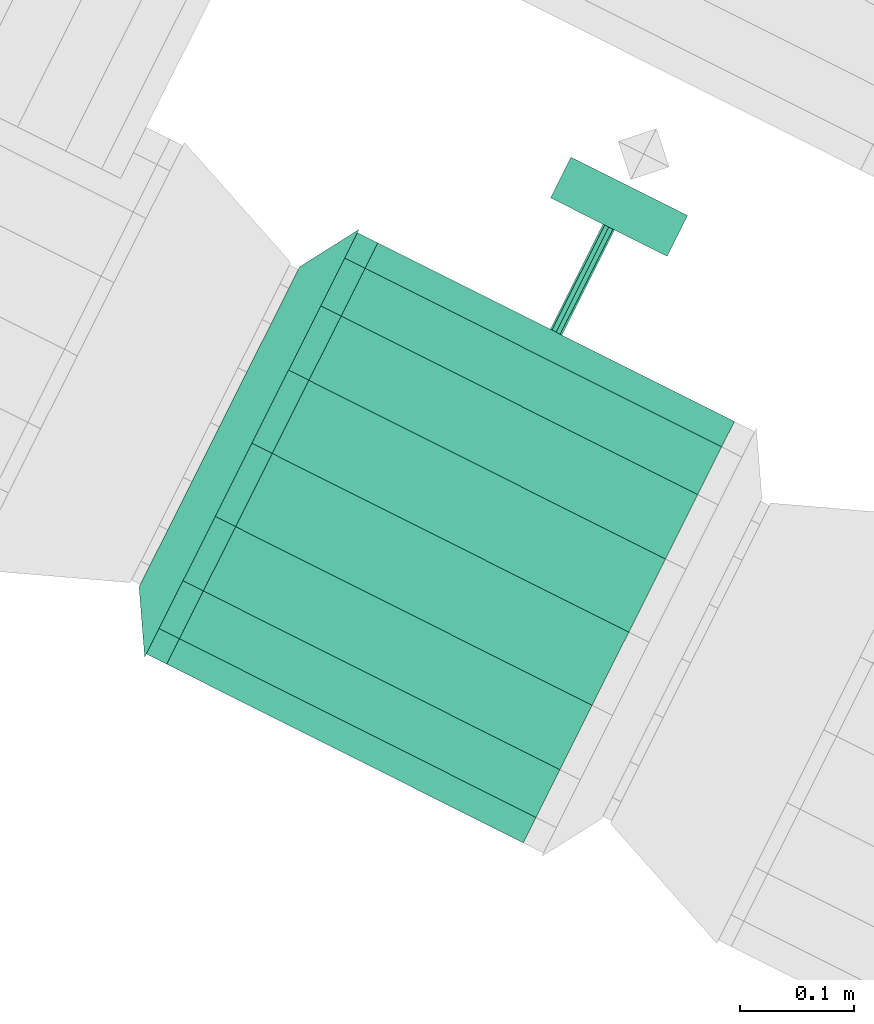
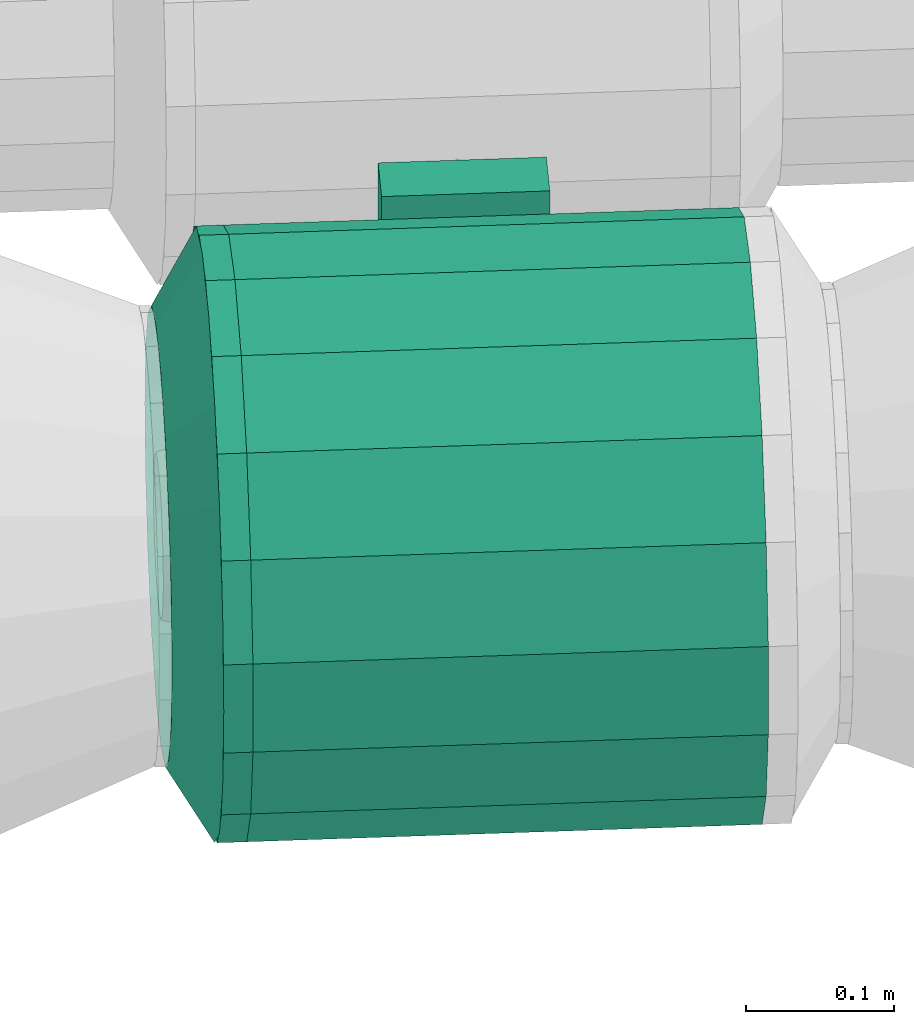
# One storey, part 28 of 152: 1 flow controller, 1 flow fitting.
"""IFC2X3 building model written with IfcOpenShell, lengths in metres."""

from ifc_helpers import new_model, si_unit, derived_unit, direction, frame, origin, place, context, subcontext, project, spatial, face_set, surface_model, source, transform, mapped, material, type_object, type_shapes, element, save


model = new_model("IFC2X3")

# Units and contexts
model_context = context("Model", 3, precision=5.2338327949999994e-05, world=origin(), true_north=direction((0.0, 1.0)))
body_context = subcontext(model_context, "Body", "Model", "MODEL_VIEW")
ifc_project = project(units=[si_unit("LENGTHUNIT", "METRE"), si_unit("AREAUNIT", "SQUARE_METRE"), si_unit("VOLUMEUNIT", "CUBIC_METRE"), si_unit("MASSUNIT", "GRAM", prefix="KILO"), si_unit("PLANEANGLEUNIT", "RADIAN"), derived_unit("THERMALTRANSMITTANCEUNIT", [(si_unit("MASSUNIT", "GRAM", prefix="KILO"), 1), (si_unit("THERMODYNAMICTEMPERATUREUNIT", "KELVIN"), -1), (si_unit("TIMEUNIT", "SECOND"), -3)])], contexts=[model_context])

# Site, building, storey
site_placement = place(None, frame((0.0, 0.0, 0.0), z_axis=(0.0, 0.0, 1.0), x_axis=(0.8939966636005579, -0.4480736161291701, 0.0)))
site = spatial("IfcSite", under=ifc_project, at=site_placement, Name="Default", CompositionType="ELEMENT")
building_placement = place(site_placement, origin())
building = spatial("IfcBuilding", under=site, at=building_placement, CompositionType="ELEMENT")
storey_placement = place(building_placement, frame((0.0, 0.0, 2.7499999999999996)))
storey = spatial("IfcBuildingStorey", under=building, at=storey_placement, Name="1. Obergeschoss", CompositionType="ELEMENT", Elevation=2.7499999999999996)

# Flow controller
ifc_material = material(Name="IfcSurfaceStyle #9317")
distribution_element_type_1 = type_object("IfcDistributionElementType", Name="Ventil 263077:Ventil 263077", material=ifc_material)
shared_shape_1 = source(origin(), body_context, "Body", "SurfaceModel", [
    surface_model("IfcFaceBasedSurfaceModel", [(13.035778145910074, 6.166787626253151, 5.57849078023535), (13.150078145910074, 6.166787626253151, 5.57849078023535), (13.150078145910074, 6.166787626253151, 5.69279078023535), (13.035778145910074, 6.166787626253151, 5.69279078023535), (13.150078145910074, 6.206787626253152, 5.69279078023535), (13.035778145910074, 6.206787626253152, 5.69279078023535), (13.150078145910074, 6.206787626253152, 5.57849078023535), (13.035778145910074, 6.206787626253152, 5.57849078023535), (12.917928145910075, 5.856787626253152, 5.745640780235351), (12.917928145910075, 5.819165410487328, 5.7390069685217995), (12.937928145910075, 5.819165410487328, 5.7390069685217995), (12.937928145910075, 5.856787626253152, 5.745640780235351), (12.917928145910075, 5.786080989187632, 5.719905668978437), (12.937928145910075, 5.786080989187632, 5.719905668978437), (12.917928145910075, 5.761524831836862, 5.69064078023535), (12.937928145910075, 5.761524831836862, 5.69064078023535), (12.917928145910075, 5.748458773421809, 5.654742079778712), (12.937928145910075, 5.748458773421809, 5.654742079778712), (12.917928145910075, 5.748458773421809, 5.616539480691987), (12.937928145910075, 5.748458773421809, 5.616539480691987), (12.917928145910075, 5.761524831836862, 5.580640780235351), (12.937928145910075, 5.761524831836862, 5.580640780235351), (12.917928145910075, 5.786080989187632, 5.551375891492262), (12.937928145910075, 5.786080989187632, 5.551375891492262), (12.917928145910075, 5.819165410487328, 5.5322745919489), (12.937928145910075, 5.819165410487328, 5.5322745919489), (12.917928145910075, 5.856787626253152, 5.525640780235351), (12.937928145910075, 5.856787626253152, 5.525640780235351), (12.917928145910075, 5.894409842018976, 5.5322745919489), (12.937928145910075, 5.894409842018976, 5.5322745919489), (12.917928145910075, 5.927494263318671, 5.551375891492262), (12.937928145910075, 5.927494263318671, 5.551375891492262), (12.917928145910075, 5.95205042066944, 5.580640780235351), (12.937928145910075, 5.95205042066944, 5.580640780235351), (12.917928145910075, 5.965116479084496, 5.616539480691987), (12.937928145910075, 5.965116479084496, 5.616539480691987), (12.917928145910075, 5.965116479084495, 5.654742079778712), (12.937928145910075, 5.965116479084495, 5.654742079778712), (12.917928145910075, 5.95205042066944, 5.69064078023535), (12.937928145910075, 5.95205042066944, 5.69064078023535), (12.917928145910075, 5.927494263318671, 5.719905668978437), (12.937928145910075, 5.927494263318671, 5.719905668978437), (12.917928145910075, 5.894409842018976, 5.7390069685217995), (12.937928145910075, 5.894409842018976, 5.7390069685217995), (12.917928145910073, 5.856787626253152, 5.63564078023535), (12.937928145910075, 5.856787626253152, 5.63564078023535), (12.937928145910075, 5.791287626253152, 5.6356407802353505), (12.937928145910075, 5.795237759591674, 5.61323846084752), (13.092928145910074, 5.803084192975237, 5.616094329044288), (13.092928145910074, 5.799637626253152, 5.635640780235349), (12.937928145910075, 5.806611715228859, 5.5935381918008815), (13.092928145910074, 5.813008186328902, 5.598905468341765), (12.937928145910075, 5.824037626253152, 5.578916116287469), (13.092928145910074, 5.828212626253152, 5.58614742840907), (12.937928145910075, 5.845413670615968, 5.571135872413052), (13.092928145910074, 5.846863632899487, 5.579359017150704), (12.937928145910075, 5.868161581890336, 5.57113587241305), (13.092928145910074, 5.866711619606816, 5.579359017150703), (12.937928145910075, 5.889537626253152, 5.578916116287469), (13.092928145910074, 5.885362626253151, 5.58614742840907), (12.937928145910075, 5.906963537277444, 5.593538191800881), (13.092928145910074, 5.9005670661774, 5.598905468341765), (12.937928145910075, 5.918337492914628, 5.613238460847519), (13.092928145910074, 5.910491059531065, 5.616094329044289), (12.937928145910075, 5.922287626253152, 5.63564078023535), (13.092928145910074, 5.913937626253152, 5.63564078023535), (12.937928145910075, 5.9183374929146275, 5.658043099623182), (13.092928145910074, 5.910491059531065, 5.655187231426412), (12.937928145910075, 5.906963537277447, 5.6777433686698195), (13.092928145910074, 5.900567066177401, 5.672376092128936), (12.937928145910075, 5.889537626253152, 5.69236544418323), (13.092928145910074, 5.885362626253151, 5.685134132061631), (12.937928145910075, 5.868161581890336, 5.70014568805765), (13.092928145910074, 5.866711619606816, 5.691922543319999), (12.937928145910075, 5.845413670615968, 5.70014568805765), (13.092928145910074, 5.846863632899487, 5.691922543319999), (12.937928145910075, 5.824037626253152, 5.69236544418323), (13.092928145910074, 5.828212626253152, 5.685134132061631), (12.937928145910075, 5.806611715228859, 5.677743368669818), (13.092928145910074, 5.813008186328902, 5.672376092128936), (12.937928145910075, 5.795237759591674, 5.658043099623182), (13.092928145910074, 5.803084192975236, 5.655187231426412), (13.247928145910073, 5.795237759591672, 5.613238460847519), (13.247928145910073, 5.791287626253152, 5.63564078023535), (13.247928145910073, 5.806611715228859, 5.5935381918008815), (13.247928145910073, 5.824037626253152, 5.578916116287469), (13.247928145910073, 5.845413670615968, 5.571135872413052), (13.247928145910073, 5.868161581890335, 5.571135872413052), (13.247928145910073, 5.889537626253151, 5.578916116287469), (13.247928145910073, 5.906963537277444, 5.5935381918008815), (13.247928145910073, 5.9183374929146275, 5.613238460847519), (13.247928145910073, 5.9222876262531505, 5.63564078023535), (13.247928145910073, 5.918337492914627, 5.658043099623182), (13.247928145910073, 5.906963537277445, 5.6777433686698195), (13.247928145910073, 5.889537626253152, 5.692365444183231), (13.247928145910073, 5.868161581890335, 5.70014568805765), (13.247928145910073, 5.845413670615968, 5.70014568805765), (13.247928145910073, 5.824037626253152, 5.69236544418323), (13.247928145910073, 5.806611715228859, 5.67774336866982), (13.247928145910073, 5.795237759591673, 5.658043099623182), (13.247928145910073, 5.856787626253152, 5.745640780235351), (13.247928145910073, 5.819165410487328, 5.7390069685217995), (13.267928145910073, 5.819165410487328, 5.7390069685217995), (13.267928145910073, 5.856787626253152, 5.745640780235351), (13.247928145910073, 5.786080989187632, 5.719905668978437), (13.267928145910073, 5.786080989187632, 5.719905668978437), (13.247928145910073, 5.761524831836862, 5.69064078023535), (13.267928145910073, 5.761524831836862, 5.69064078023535), (13.247928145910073, 5.748458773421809, 5.654742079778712), (13.267928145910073, 5.748458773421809, 5.654742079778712), (13.247928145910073, 5.748458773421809, 5.616539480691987), (13.267928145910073, 5.748458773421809, 5.616539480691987), (13.247928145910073, 5.761524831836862, 5.580640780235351), (13.267928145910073, 5.761524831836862, 5.580640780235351), (13.247928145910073, 5.786080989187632, 5.551375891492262), (13.267928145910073, 5.786080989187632, 5.551375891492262), (13.247928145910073, 5.819165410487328, 5.5322745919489), (13.267928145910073, 5.819165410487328, 5.5322745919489), (13.247928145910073, 5.856787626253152, 5.525640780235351), (13.267928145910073, 5.856787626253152, 5.525640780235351), (13.247928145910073, 5.894409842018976, 5.5322745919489), (13.267928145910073, 5.894409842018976, 5.5322745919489), (13.247928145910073, 5.927494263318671, 5.551375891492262), (13.267928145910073, 5.927494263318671, 5.551375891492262), (13.247928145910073, 5.95205042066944, 5.580640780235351), (13.267928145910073, 5.95205042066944, 5.580640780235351), (13.247928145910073, 5.965116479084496, 5.616539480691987), (13.267928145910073, 5.965116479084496, 5.616539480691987), (13.247928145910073, 5.965116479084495, 5.654742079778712), (13.267928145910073, 5.965116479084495, 5.654742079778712), (13.247928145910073, 5.95205042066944, 5.69064078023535), (13.267928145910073, 5.95205042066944, 5.69064078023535), (13.247928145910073, 5.927494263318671, 5.719905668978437), (13.267928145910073, 5.927494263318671, 5.719905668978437), (13.247928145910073, 5.894409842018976, 5.7390069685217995), (13.267928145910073, 5.894409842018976, 5.7390069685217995), (13.247928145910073, 5.856787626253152, 5.63564078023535), (13.267928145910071, 5.856787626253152, 5.63564078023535), (13.092928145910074, 5.856787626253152, 5.69279078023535), (13.112474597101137, 5.856787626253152, 5.689344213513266), (13.112474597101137, 6.040362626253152, 5.689344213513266), (13.092928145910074, 6.040362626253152, 5.69279078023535), (13.12966345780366, 5.856787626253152, 5.6794202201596), (13.12966345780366, 6.040362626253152, 5.6794202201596), (13.142421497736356, 5.856787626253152, 5.664215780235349), (13.142421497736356, 6.040362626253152, 5.664215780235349), (13.149209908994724, 5.856787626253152, 5.645564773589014), (13.149209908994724, 6.040362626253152, 5.645564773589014), (13.149209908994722, 5.856787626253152, 5.625716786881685), (13.149209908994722, 6.040362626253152, 5.625716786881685), (13.142421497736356, 5.856787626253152, 5.60706578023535), (13.142421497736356, 6.040362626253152, 5.60706578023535), (13.12966345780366, 5.856787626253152, 5.591861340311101), (13.12966345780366, 6.040362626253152, 5.591861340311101), (13.112474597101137, 5.856787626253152, 5.581937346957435), (13.112474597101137, 6.040362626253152, 5.581937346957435), (13.092928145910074, 5.856787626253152, 5.57849078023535), (13.092928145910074, 6.040362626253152, 5.57849078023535), (13.073381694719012, 5.856787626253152, 5.581937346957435), (13.073381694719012, 6.040362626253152, 5.581937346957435), (13.056192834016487, 5.856787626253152, 5.591861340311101), (13.056192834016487, 6.040362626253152, 5.591861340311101), (13.043434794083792, 5.856787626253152, 5.60706578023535), (13.043434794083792, 6.040362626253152, 5.60706578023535), (13.036646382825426, 5.856787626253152, 5.625716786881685), (13.036646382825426, 6.040362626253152, 5.625716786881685), (13.036646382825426, 5.856787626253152, 5.645564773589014), (13.036646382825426, 6.040362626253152, 5.645564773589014), (13.043434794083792, 5.856787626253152, 5.66421578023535), (13.043434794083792, 6.040362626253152, 5.66421578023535), (13.056192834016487, 5.856787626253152, 5.679420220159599), (13.056192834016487, 6.040362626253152, 5.679420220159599), (13.073381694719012, 5.856787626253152, 5.689344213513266), (13.073381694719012, 6.040362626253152, 5.689344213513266), (13.092928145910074, 5.856787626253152, 5.63564078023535), (13.092928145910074, 6.040362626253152, 5.63564078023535), (13.092928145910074, 6.040362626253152, 5.64135578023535), (13.096969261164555, 6.040362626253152, 5.639681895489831), (13.096969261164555, 6.166787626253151, 5.639681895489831), (13.092928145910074, 6.166787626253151, 5.64135578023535), (13.098643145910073, 6.040362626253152, 5.635640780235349), (13.098643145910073, 6.166787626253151, 5.635640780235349), (13.096969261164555, 6.040362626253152, 5.631599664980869), (13.096969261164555, 6.166787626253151, 5.631599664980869), (13.092928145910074, 6.040362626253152, 5.629925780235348), (13.092928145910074, 6.166787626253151, 5.629925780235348), (13.088887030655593, 6.040362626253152, 5.631599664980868), (13.088887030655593, 6.166787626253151, 5.631599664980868), (13.087213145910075, 6.040362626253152, 5.63564078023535), (13.087213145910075, 6.166787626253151, 5.63564078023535), (13.088887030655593, 6.040362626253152, 5.639681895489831), (13.088887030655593, 6.166787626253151, 5.639681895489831), (13.092928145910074, 6.166787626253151, 5.63564078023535), (12.917928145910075, 5.856787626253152, 5.84564078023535), (12.917928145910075, 5.784963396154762, 5.83297623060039), (13.267928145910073, 5.784963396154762, 5.83297623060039), (13.267928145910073, 5.856787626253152, 5.84564078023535), (12.917928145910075, 5.721802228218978, 5.796510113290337), (13.267928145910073, 5.721802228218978, 5.796510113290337), (12.917928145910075, 5.67492229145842, 5.740640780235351), (13.267928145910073, 5.67492229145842, 5.740640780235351), (12.917928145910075, 5.6499779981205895, 5.672106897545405), (13.267928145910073, 5.6499779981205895, 5.672106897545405), (12.917928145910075, 5.649977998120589, 5.599174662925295), (13.267928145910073, 5.649977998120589, 5.599174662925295), (12.917928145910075, 5.67492229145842, 5.53064078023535), (13.267928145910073, 5.67492229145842, 5.53064078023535), (12.917928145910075, 5.721802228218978, 5.474771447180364), (13.267928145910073, 5.721802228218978, 5.474771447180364), (12.917928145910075, 5.784963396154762, 5.4383053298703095), (13.267928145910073, 5.784963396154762, 5.4383053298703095), (12.917928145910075, 5.856787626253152, 5.42564078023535), (13.267928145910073, 5.856787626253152, 5.42564078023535), (12.917928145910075, 5.928611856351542, 5.43830532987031), (13.267928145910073, 5.928611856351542, 5.43830532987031), (12.917928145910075, 5.991773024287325, 5.474771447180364), (13.267928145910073, 5.991773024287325, 5.474771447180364), (12.917928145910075, 6.038652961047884, 5.53064078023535), (13.267928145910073, 6.038652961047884, 5.53064078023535), (12.917928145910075, 6.063597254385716, 5.599174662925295), (13.267928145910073, 6.063597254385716, 5.599174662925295), (12.917928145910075, 6.063597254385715, 5.672106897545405), (13.267928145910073, 6.063597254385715, 5.672106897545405), (12.917928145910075, 6.038652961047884, 5.740640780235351), (13.267928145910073, 6.038652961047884, 5.740640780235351), (12.917928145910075, 5.991773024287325, 5.796510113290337), (13.267928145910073, 5.991773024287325, 5.796510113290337), (12.917928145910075, 5.928611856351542, 5.83297623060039), (13.267928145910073, 5.928611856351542, 5.83297623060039)], [face_set([[[0, 1, 2, 3]], [[3, 2, 4, 5]], [[5, 4, 6, 7]], [[7, 6, 1, 0]], [[0, 3, 5, 7]], [[6, 4, 2, 1]], [[8, 9, 10, 11]], [[9, 12, 13, 10]], [[12, 14, 15, 13]], [[14, 16, 17, 15]], [[16, 18, 19, 17]], [[18, 20, 21, 19]], [[20, 22, 23, 21]], [[22, 24, 25, 23]], [[24, 26, 27, 25]], [[26, 28, 29, 27]], [[28, 30, 31, 29]], [[30, 32, 33, 31]], [[32, 34, 35, 33]], [[34, 36, 37, 35]], [[36, 38, 39, 37]], [[38, 40, 41, 39]], [[40, 42, 43, 41]], [[42, 8, 11, 43]], [[44, 9, 8]], [[44, 12, 9]], [[44, 14, 12]], [[44, 16, 14]], [[44, 18, 16]], [[44, 20, 18]], [[44, 22, 20]], [[44, 24, 22]], [[44, 26, 24]], [[44, 28, 26]], [[44, 30, 28]], [[44, 32, 30]], [[44, 34, 32]], [[44, 36, 34]], [[44, 38, 36]], [[44, 40, 38]], [[44, 42, 40]], [[44, 8, 42]], [[45, 43, 11]], [[45, 41, 43]], [[45, 39, 41]], [[45, 37, 39]], [[45, 35, 37]], [[45, 33, 35]], [[45, 31, 33]], [[45, 29, 31]], [[45, 27, 29]], [[45, 25, 27]], [[45, 23, 25]], [[45, 21, 23]], [[45, 19, 21]], [[45, 17, 19]], [[45, 15, 17]], [[45, 13, 15]], [[45, 10, 13]], [[45, 11, 10]], [[46, 47, 48, 49]], [[47, 50, 51, 48]], [[50, 52, 53, 51]], [[52, 54, 55, 53]], [[54, 56, 57, 55]], [[56, 58, 59, 57]], [[58, 60, 61, 59]], [[60, 62, 63, 61]], [[62, 64, 65, 63]], [[64, 66, 67, 65]], [[66, 68, 69, 67]], [[68, 70, 71, 69]], [[70, 72, 73, 71]], [[72, 74, 75, 73]], [[74, 76, 77, 75]], [[76, 78, 79, 77]], [[78, 80, 81, 79]], [[80, 46, 49, 81]], [[49, 48, 82, 83]], [[48, 51, 84, 82]], [[51, 53, 85, 84]], [[53, 55, 86, 85]], [[55, 57, 87, 86]], [[57, 59, 88, 87]], [[59, 61, 89, 88]], [[61, 63, 90, 89]], [[63, 65, 91, 90]], [[65, 67, 92, 91]], [[67, 69, 93, 92]], [[69, 71, 94, 93]], [[71, 73, 95, 94]], [[73, 75, 96, 95]], [[75, 77, 97, 96]], [[77, 79, 98, 97]], [[79, 81, 99, 98]], [[81, 49, 83, 99]], [[100, 101, 102, 103]], [[101, 104, 105, 102]], [[104, 106, 107, 105]], [[106, 108, 109, 107]], [[108, 110, 111, 109]], [[110, 112, 113, 111]], [[112, 114, 115, 113]], [[114, 116, 117, 115]], [[116, 118, 119, 117]], [[118, 120, 121, 119]], [[120, 122, 123, 121]], [[122, 124, 125, 123]], [[124, 126, 127, 125]], [[126, 128, 129, 127]], [[128, 130, 131, 129]], [[130, 132, 133, 131]], [[132, 134, 135, 133]], [[134, 100, 103, 135]], [[136, 101, 100]], [[136, 104, 101]], [[136, 106, 104]], [[136, 108, 106]], [[136, 110, 108]], [[136, 112, 110]], [[136, 114, 112]], [[136, 116, 114]], [[136, 118, 116]], [[136, 120, 118]], [[136, 122, 120]], [[136, 124, 122]], [[136, 126, 124]], [[136, 128, 126]], [[136, 130, 128]], [[136, 132, 130]], [[136, 134, 132]], [[136, 100, 134]], [[137, 135, 103]], [[137, 133, 135]], [[137, 131, 133]], [[137, 129, 131]], [[137, 127, 129]], [[137, 125, 127]], [[137, 123, 125]], [[137, 121, 123]], [[137, 119, 121]], [[137, 117, 119]], [[137, 115, 117]], [[137, 113, 115]], [[137, 111, 113]], [[137, 109, 111]], [[137, 107, 109]], [[137, 105, 107]], [[137, 102, 105]], [[137, 103, 102]], [[138, 139, 140, 141]], [[139, 142, 143, 140]], [[142, 144, 145, 143]], [[144, 146, 147, 145]], [[146, 148, 149, 147]], [[148, 150, 151, 149]], [[150, 152, 153, 151]], [[152, 154, 155, 153]], [[154, 156, 157, 155]], [[156, 158, 159, 157]], [[158, 160, 161, 159]], [[160, 162, 163, 161]], [[162, 164, 165, 163]], [[164, 166, 167, 165]], [[166, 168, 169, 167]], [[168, 170, 171, 169]], [[170, 172, 173, 171]], [[172, 138, 141, 173]], [[174, 139, 138]], [[174, 142, 139]], [[174, 144, 142]], [[174, 146, 144]], [[174, 148, 146]], [[174, 150, 148]], [[174, 152, 150]], [[174, 154, 152]], [[174, 156, 154]], [[174, 158, 156]], [[174, 160, 158]], [[174, 162, 160]], [[174, 164, 162]], [[174, 166, 164]], [[174, 168, 166]], [[174, 170, 168]], [[174, 172, 170]], [[174, 138, 172]], [[175, 173, 141]], [[175, 171, 173]], [[175, 169, 171]], [[175, 167, 169]], [[175, 165, 167]], [[175, 163, 165]], [[175, 161, 163]], [[175, 159, 161]], [[175, 157, 159]], [[175, 155, 157]], [[175, 153, 155]], [[175, 151, 153]], [[175, 149, 151]], [[175, 147, 149]], [[175, 145, 147]], [[175, 143, 145]], [[175, 140, 143]], [[175, 141, 140]], [[176, 177, 178, 179]], [[177, 180, 181, 178]], [[180, 182, 183, 181]], [[182, 184, 185, 183]], [[184, 186, 187, 185]], [[186, 188, 189, 187]], [[188, 190, 191, 189]], [[190, 176, 179, 191]], [[192, 191, 179]], [[192, 189, 191]], [[192, 187, 189]], [[192, 185, 187]], [[192, 183, 185]], [[192, 181, 183]], [[192, 178, 181]], [[192, 179, 178]], [[193, 194, 195, 196]], [[194, 197, 198, 195]], [[197, 199, 200, 198]], [[199, 201, 202, 200]], [[201, 203, 204, 202]], [[203, 205, 206, 204]], [[205, 207, 208, 206]], [[207, 209, 210, 208]], [[209, 211, 212, 210]], [[211, 213, 214, 212]], [[213, 215, 216, 214]], [[215, 217, 218, 216]], [[217, 219, 220, 218]], [[219, 221, 222, 220]], [[221, 223, 224, 222]], [[223, 225, 226, 224]], [[225, 227, 228, 226]], [[227, 193, 196, 228]]])]),
])
type_shapes(distribution_element_type_1, [shared_shape_1])
flow_controller_placement = place(storey_placement, frame((0.0, 0.0, -2.7499999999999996)))
element("IfcFlowController", 1, at=flow_controller_placement, inside=storey, type_object=distribution_element_type_1, material=ifc_material, Name="Ventil", ObjectType="Ventil", context=body_context, shape_type="MappedRepresentation", body=[
    mapped(shared_shape_1, transform((0.0, 0.0, 0.0), scale=1.0)),
])

# Flow fitting
distribution_element_type_2 = type_object("IfcDistributionElementType", Name="Flansch 265703:Flansch 265703", material=ifc_material)
shared_shape_2 = source(origin(), body_context, "Body", "SurfaceModel", [
    surface_model("IfcFaceBasedSurfaceModel", [(12.917928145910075, 5.856787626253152, 5.745640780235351), (12.917928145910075, 5.894409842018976, 5.7390069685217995), (12.897928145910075, 5.894409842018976, 5.7390069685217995), (12.897928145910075, 5.856787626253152, 5.745640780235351), (12.917928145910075, 5.927494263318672, 5.719905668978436), (12.897928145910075, 5.927494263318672, 5.719905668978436), (12.917928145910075, 5.952050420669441, 5.6906407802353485), (12.897928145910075, 5.952050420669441, 5.6906407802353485), (12.917928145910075, 5.965116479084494, 5.6547420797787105), (12.897928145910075, 5.965116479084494, 5.6547420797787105), (12.917928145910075, 5.965116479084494, 5.616539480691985), (12.897928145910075, 5.965116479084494, 5.616539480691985), (12.917928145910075, 5.952050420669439, 5.580640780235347), (12.897928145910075, 5.952050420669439, 5.580640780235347), (12.917928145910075, 5.927494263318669, 5.551375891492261), (12.897928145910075, 5.927494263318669, 5.551375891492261), (12.917928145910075, 5.894409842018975, 5.532274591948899), (12.897928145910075, 5.894409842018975, 5.532274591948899), (12.917928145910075, 5.85678762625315, 5.525640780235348), (12.897928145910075, 5.85678762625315, 5.525640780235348), (12.917928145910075, 5.819165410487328, 5.5322745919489), (12.897928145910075, 5.819165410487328, 5.5322745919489), (12.917928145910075, 5.7860809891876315, 5.551375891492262), (12.897928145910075, 5.7860809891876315, 5.551375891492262), (12.917928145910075, 5.761524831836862, 5.580640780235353), (12.897928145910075, 5.761524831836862, 5.580640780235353), (12.917928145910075, 5.7484587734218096, 5.616539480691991), (12.897928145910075, 5.7484587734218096, 5.616539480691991), (12.917928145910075, 5.7484587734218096, 5.654742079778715), (12.897928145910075, 5.7484587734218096, 5.654742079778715), (12.917928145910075, 5.761524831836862, 5.690640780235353), (12.897928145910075, 5.761524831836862, 5.690640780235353), (12.917928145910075, 5.786080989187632, 5.7199056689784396), (12.897928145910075, 5.786080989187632, 5.7199056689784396), (12.917928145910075, 5.8191654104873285, 5.7390069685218), (12.897928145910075, 5.8191654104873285, 5.7390069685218), (12.897928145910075, 5.85678762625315, 5.63564078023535), (12.897928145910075, 5.9222876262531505, 5.635640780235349), (12.897928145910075, 5.9183374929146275, 5.6132384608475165), (12.865928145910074, 5.910491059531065, 5.616094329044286), (12.865928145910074, 5.9139376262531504, 5.63564078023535), (12.897928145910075, 5.906963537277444, 5.593538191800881), (12.865928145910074, 5.900567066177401, 5.598905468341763), (12.897928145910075, 5.8895376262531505, 5.578916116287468), (12.865928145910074, 5.88536262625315, 5.5861474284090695), (12.897928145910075, 5.868161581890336, 5.571135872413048), (12.865928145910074, 5.866711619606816, 5.579359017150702), (12.897928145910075, 5.845413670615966, 5.571135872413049), (12.865928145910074, 5.8468636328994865, 5.579359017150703), (12.897928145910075, 5.824037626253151, 5.578916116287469), (12.865928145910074, 5.828212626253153, 5.586147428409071), (12.897928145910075, 5.806611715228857, 5.593538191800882), (12.865928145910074, 5.813008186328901, 5.5989054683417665), (12.897928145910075, 5.795237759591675, 5.613238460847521), (12.865928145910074, 5.803084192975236, 5.61609432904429), (12.897928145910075, 5.791287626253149, 5.63564078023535), (12.865928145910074, 5.799637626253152, 5.635640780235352), (12.897928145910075, 5.795237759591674, 5.658043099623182), (12.865928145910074, 5.803084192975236, 5.655187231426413), (12.897928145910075, 5.80661171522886, 5.677743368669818), (12.865928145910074, 5.813008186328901, 5.672376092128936), (12.897928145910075, 5.824037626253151, 5.692365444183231), (12.865928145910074, 5.828212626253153, 5.6851341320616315), (12.897928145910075, 5.845413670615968, 5.700145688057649), (12.865928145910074, 5.846863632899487, 5.691922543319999), (12.897928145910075, 5.868161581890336, 5.700145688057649), (12.865928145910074, 5.866711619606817, 5.691922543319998), (12.897928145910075, 5.889537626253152, 5.692365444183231), (12.865928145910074, 5.885362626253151, 5.6851341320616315), (12.897928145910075, 5.906963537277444, 5.677743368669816), (12.865928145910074, 5.900567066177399, 5.6723760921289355), (12.897928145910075, 5.918337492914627, 5.65804309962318), (12.865928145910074, 5.910491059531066, 5.655187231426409), (12.917928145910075, 5.856787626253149, 5.8456407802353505), (12.917928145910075, 5.928611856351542, 5.832976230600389), (12.897928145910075, 5.928611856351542, 5.832976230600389), (12.897928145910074, 5.85678762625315, 5.8456407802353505), (12.917928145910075, 5.991773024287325, 5.7965101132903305), (12.897928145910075, 5.991773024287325, 5.7965101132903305), (12.917928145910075, 6.038652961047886, 5.740640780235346), (12.897928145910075, 6.038652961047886, 5.740640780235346), (12.917928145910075, 6.063597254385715, 5.6721068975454), (12.897928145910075, 6.063597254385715, 5.6721068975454), (12.917928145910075, 6.063597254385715, 5.59917466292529), (12.897928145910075, 6.063597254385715, 5.59917466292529), (12.917928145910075, 6.038652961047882, 5.530640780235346), (12.897928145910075, 6.038652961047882, 5.530640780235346), (12.917928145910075, 5.991773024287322, 5.474771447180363), (12.897928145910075, 5.991773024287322, 5.474771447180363), (12.917928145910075, 5.928611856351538, 5.438305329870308), (12.897928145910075, 5.928611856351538, 5.438305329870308), (12.917928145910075, 5.856787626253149, 5.425640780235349), (12.897928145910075, 5.856787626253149, 5.425640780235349), (12.917928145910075, 5.784963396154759, 5.4383053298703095), (12.897928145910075, 5.784963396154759, 5.4383053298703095), (12.917928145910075, 5.721802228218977, 5.474771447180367), (12.897928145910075, 5.721802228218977, 5.474771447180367), (12.917928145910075, 5.67492229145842, 5.530640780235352), (12.897928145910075, 5.67492229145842, 5.530640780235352), (12.917928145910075, 5.6499779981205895, 5.599174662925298), (12.897928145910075, 5.6499779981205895, 5.599174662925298), (12.917928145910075, 5.6499779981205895, 5.672106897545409), (12.897928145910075, 5.6499779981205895, 5.672106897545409), (12.917928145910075, 5.6749222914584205, 5.7406407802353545), (12.897928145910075, 5.6749222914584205, 5.7406407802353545), (12.917928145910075, 5.721802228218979, 5.7965101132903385), (12.897928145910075, 5.721802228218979, 5.7965101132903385), (12.917928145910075, 5.7849633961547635, 5.8329762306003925), (12.897928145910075, 5.7849633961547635, 5.8329762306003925), (12.897928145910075, 6.0667876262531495, 5.635640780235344), (12.897928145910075, 6.054123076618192, 5.563816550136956), (12.865928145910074, 6.004460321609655, 5.581892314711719), (12.865928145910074, 6.013937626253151, 5.635640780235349), (12.897928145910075, 6.017656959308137, 5.500655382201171), (12.865928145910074, 5.977171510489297, 5.534626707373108), (12.897928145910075, 5.96178762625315, 5.453775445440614), (12.865928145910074, 5.935362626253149, 5.4995448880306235), (12.897928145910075, 5.893253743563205, 5.428831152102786), (12.865928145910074, 5.884076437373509, 5.4808782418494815), (12.897928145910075, 5.820321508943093, 5.428831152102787), (12.865928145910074, 5.829498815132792, 5.480878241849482), (12.897928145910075, 5.75178762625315, 5.45377544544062), (12.865928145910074, 5.77821262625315, 5.499544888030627), (12.897928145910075, 5.695918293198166, 5.500655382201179), (12.865928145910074, 5.736403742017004, 5.534626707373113), (12.897928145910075, 5.659452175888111, 5.563816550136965), (12.865928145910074, 5.709114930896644, 5.581892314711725), (12.897928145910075, 5.646787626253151, 5.635640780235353), (12.865928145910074, 5.699637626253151, 5.635640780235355), (12.897928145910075, 5.659452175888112, 5.707465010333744), (12.865928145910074, 5.709114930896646, 5.689389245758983), (12.897928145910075, 5.695918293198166, 5.770626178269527), (12.865928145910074, 5.7364037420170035, 5.736654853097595), (12.897928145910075, 5.7517876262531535, 5.817506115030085), (12.865928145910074, 5.778212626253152, 5.771736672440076), (12.897928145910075, 5.8203215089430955, 5.842450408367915), (12.865928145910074, 5.829498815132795, 5.7904033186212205), (12.897928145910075, 5.893253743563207, 5.842450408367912), (12.865928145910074, 5.884076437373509, 5.79040331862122), (12.897928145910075, 5.9617876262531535, 5.81750611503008), (12.865928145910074, 5.93536262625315, 5.771736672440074), (12.897928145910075, 6.0176569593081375, 5.770626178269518), (12.865928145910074, 5.977171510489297, 5.7366548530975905), (12.897928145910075, 6.0541230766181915, 5.707465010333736), (12.865928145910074, 6.004460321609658, 5.689389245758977)], [face_set([[[0, 1, 2, 3]], [[1, 4, 5, 2]], [[4, 6, 7, 5]], [[6, 8, 9, 7]], [[8, 10, 11, 9]], [[10, 12, 13, 11]], [[12, 14, 15, 13]], [[14, 16, 17, 15]], [[16, 18, 19, 17]], [[18, 20, 21, 19]], [[20, 22, 23, 21]], [[22, 24, 25, 23]], [[24, 26, 27, 25]], [[26, 28, 29, 27]], [[28, 30, 31, 29]], [[30, 32, 33, 31]], [[32, 34, 35, 33]], [[34, 0, 3, 35]], [[36, 35, 3]], [[36, 33, 35]], [[36, 31, 33]], [[36, 29, 31]], [[36, 27, 29]], [[36, 25, 27]], [[36, 23, 25]], [[36, 21, 23]], [[36, 19, 21]], [[36, 17, 19]], [[36, 15, 17]], [[36, 13, 15]], [[36, 11, 13]], [[36, 9, 11]], [[36, 7, 9]], [[36, 5, 7]], [[36, 2, 5]], [[36, 3, 2]], [[37, 38, 39, 40]], [[38, 41, 42, 39]], [[41, 43, 44, 42]], [[43, 45, 46, 44]], [[45, 47, 48, 46]], [[47, 49, 50, 48]], [[49, 51, 52, 50]], [[51, 53, 54, 52]], [[53, 55, 56, 54]], [[55, 57, 58, 56]], [[57, 59, 60, 58]], [[59, 61, 62, 60]], [[61, 63, 64, 62]], [[63, 65, 66, 64]], [[65, 67, 68, 66]], [[67, 69, 70, 68]], [[69, 71, 72, 70]], [[71, 37, 40, 72]], [[73, 74, 75, 76]], [[74, 77, 78, 75]], [[77, 79, 80, 78]], [[79, 81, 82, 80]], [[81, 83, 84, 82]], [[83, 85, 86, 84]], [[85, 87, 88, 86]], [[87, 89, 90, 88]], [[89, 91, 92, 90]], [[91, 93, 94, 92]], [[93, 95, 96, 94]], [[95, 97, 98, 96]], [[97, 99, 100, 98]], [[99, 101, 102, 100]], [[101, 103, 104, 102]], [[103, 105, 106, 104]], [[105, 107, 108, 106]], [[107, 73, 76, 108]], [[109, 110, 111, 112]], [[110, 113, 114, 111]], [[113, 115, 116, 114]], [[115, 117, 118, 116]], [[117, 119, 120, 118]], [[119, 121, 122, 120]], [[121, 123, 124, 122]], [[123, 125, 126, 124]], [[125, 127, 128, 126]], [[127, 129, 130, 128]], [[129, 131, 132, 130]], [[131, 133, 134, 132]], [[133, 135, 136, 134]], [[135, 137, 138, 136]], [[137, 139, 140, 138]], [[139, 141, 142, 140]], [[141, 143, 144, 142]], [[143, 109, 112, 144]]])]),
])
type_shapes(distribution_element_type_2, [shared_shape_2])
flow_fitting_placement = place(storey_placement, frame((0.0, 0.0, -2.7499999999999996)))
element("IfcFlowFitting", 2, at=flow_fitting_placement, inside=storey, type_object=distribution_element_type_2, material=ifc_material, Name="Flansch", ObjectType="Flansch", context=body_context, shape_type="MappedRepresentation", body=[
    mapped(shared_shape_2, transform((0.0, 0.0, 0.0), scale=1.0)),
])

save(model, "model.ifc")
